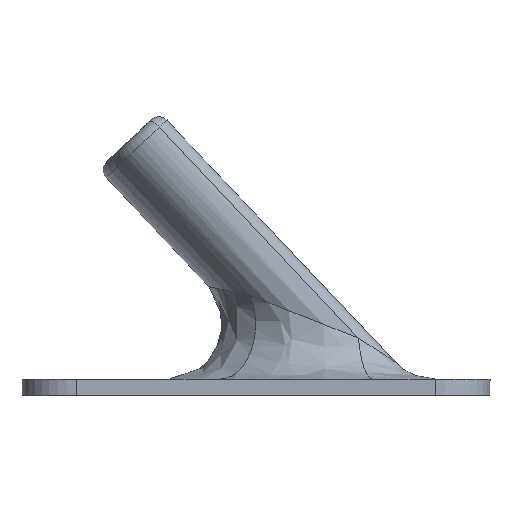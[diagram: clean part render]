
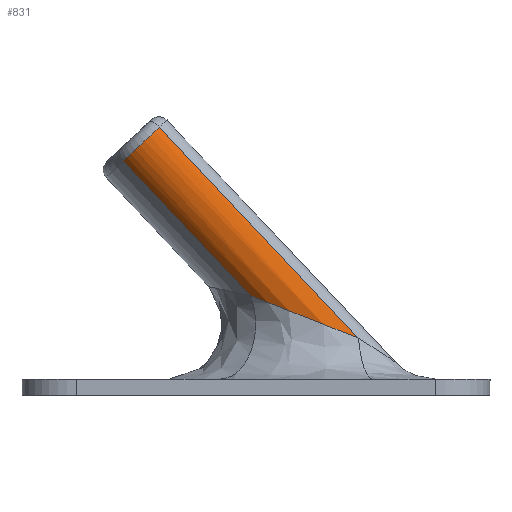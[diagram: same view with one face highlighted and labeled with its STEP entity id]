
A CAD part, left-side view. The second image highlights one B-rep face of the part: STEP entity #831.
In plain terms, the highlighted cylindrical face has radius 8 mm (diameter 16 mm), a partial arc.
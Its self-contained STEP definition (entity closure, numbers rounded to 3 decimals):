
#55=ELLIPSE('',#954,18.774,8.);
#83=LINE('',#2041,#113);
#86=LINE('',#2047,#116);
#113=VECTOR('',#1241,52.96);
#116=VECTOR('',#1250,33.763);
#146=CYLINDRICAL_SURFACE('',#962,8.);
#211=FACE_OUTER_BOUND('',#274,.T.);
#274=EDGE_LOOP('',(#758,#759,#760,#761));
#323=CIRCLE('',#899,8.);
#380=VERTEX_POINT('',#1395);
#382=VERTEX_POINT('',#1401);
#418=VERTEX_POINT('',#1891);
#419=VERTEX_POINT('',#1943);
#469=EDGE_CURVE('',#380,#382,#323,.T.);
#531=EDGE_CURVE('',#419,#418,#55,.T.);
#535=EDGE_CURVE('',#382,#419,#83,.T.);
#538=EDGE_CURVE('',#380,#418,#86,.T.);
#758=ORIENTED_EDGE('',*,*,#469,.F.);
#759=ORIENTED_EDGE('',*,*,#538,.T.);
#760=ORIENTED_EDGE('',*,*,#531,.F.);
#761=ORIENTED_EDGE('',*,*,#535,.F.);
#831=ADVANCED_FACE('',(#211),#146,.T.);
#899=AXIS2_PLACEMENT_3D('',#1405,#1097,#1098);
#954=AXIS2_PLACEMENT_3D('',#1945,#1229,#1230);
#962=AXIS2_PLACEMENT_3D('',#2046,#1248,#1249);
#1097=DIRECTION('center_axis',(0.,0.686,0.727));
#1098=DIRECTION('ref_axis',(-0.97,0.176,-0.166));
#1229=DIRECTION('center_axis',(0.,0.366,-0.931));
#1230=DIRECTION('ref_axis',(0.,-0.931,-0.366));
#1241=DIRECTION('',(0.,-0.686,-0.727));
#1248=DIRECTION('center_axis',(0.,0.686,
0.727));
#1249=DIRECTION('ref_axis',(-0.939,-0.251,0.237));
#1250=DIRECTION('',(0.,-0.686,-0.727));
#1395=CARTESIAN_POINT('',(-61.982,69.919,32.786));
#1401=CARTESIAN_POINT('',(-64.238,63.342,38.991));
#1405=CARTESIAN_POINT('Origin',(-56.801,65.486,36.969));
#1891=CARTESIAN_POINT('',(-61.982,46.748,8.229));
#1943=CARTESIAN_POINT('',(-64.238,26.997,0.472));
#1945=CARTESIAN_POINT('Origin',(-56.801,33.435,3.));
#2041=CARTESIAN_POINT('',(-64.238,16.675,-10.468));
#2046=CARTESIAN_POINT('Origin',(-56.801,18.819,-12.49));
#2047=CARTESIAN_POINT('',(-61.982,23.252,-16.673));
